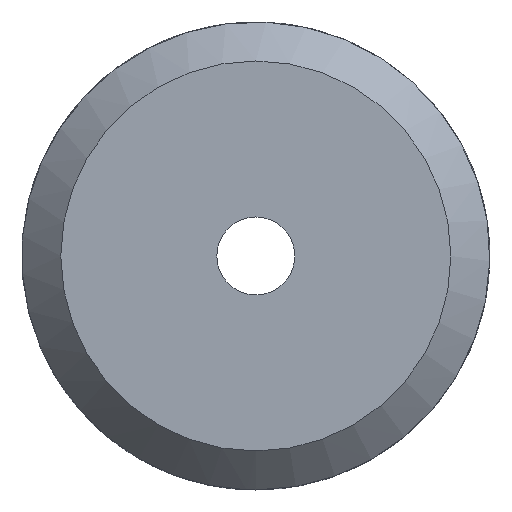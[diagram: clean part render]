
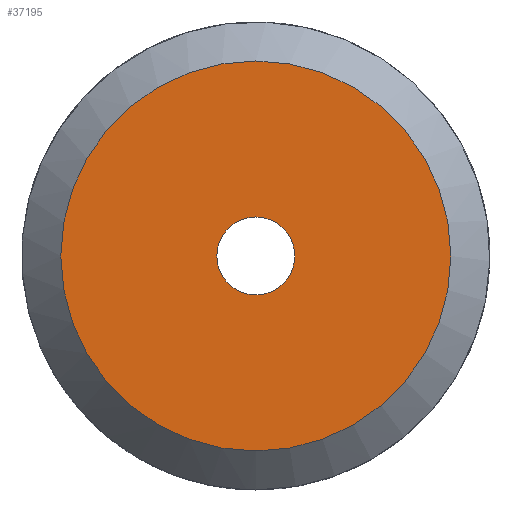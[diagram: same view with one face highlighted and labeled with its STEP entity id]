
A CAD part, left-side view. The second image highlights one B-rep face of the part: STEP entity #37195.
In plain terms, the highlighted planar face has unit normal (-1, 0, 0).
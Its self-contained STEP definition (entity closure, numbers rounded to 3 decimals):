
#10567=PLANE('',#36809);
#13615=ORIENTED_EDGE('',*,*,#14706,.F.);
#13616=ORIENTED_EDGE('',*,*,#15758,.F.);
#13618=CIRCLE('',#36233,2.5);
#13947=CIRCLE('',#36808,0.5);
#13949=VERTEX_POINT('',#17538);
#14704=VERTEX_POINT('',#36226);
#14706=EDGE_CURVE('',#13949,#13949,#13618,.T.);
#15758=EDGE_CURVE('',#14704,#14704,#13947,.T.);
#16064=EDGE_LOOP('',(#13615));
#16065=EDGE_LOOP('',(#13616));
#16371=FACE_BOUND('',#16064,.T.);
#16372=FACE_BOUND('',#16065,.T.);
#16377=DIRECTION('',(1.,0.,0.));
#16378=DIRECTION('',(0.,0.,-2.5));
#17527=DIRECTION('',(-1.,0.,0.));
#17528=DIRECTION('',(0.,-0.5,0.));
#17529=DIRECTION('',(-1.,0.,0.));
#17530=DIRECTION('',(0.,1.,0.));
#17538=CARTESIAN_POINT('',(49.154,151.857,-2.5));
#17539=CARTESIAN_POINT('',(49.154,151.857,0.));
#36226=CARTESIAN_POINT('',(49.154,151.357,0.));
#36227=CARTESIAN_POINT('',(49.154,151.857,0.));
#36228=CARTESIAN_POINT('',(49.154,151.857,-2.5));
#36233=AXIS2_PLACEMENT_3D('',#17539,#16377,#16378);
#36808=AXIS2_PLACEMENT_3D('',#36227,#17527,#17528);
#36809=AXIS2_PLACEMENT_3D('',#36228,#17529,#17530);
#37195=ADVANCED_FACE('',(#16371,#16372),#10567,.T.);
